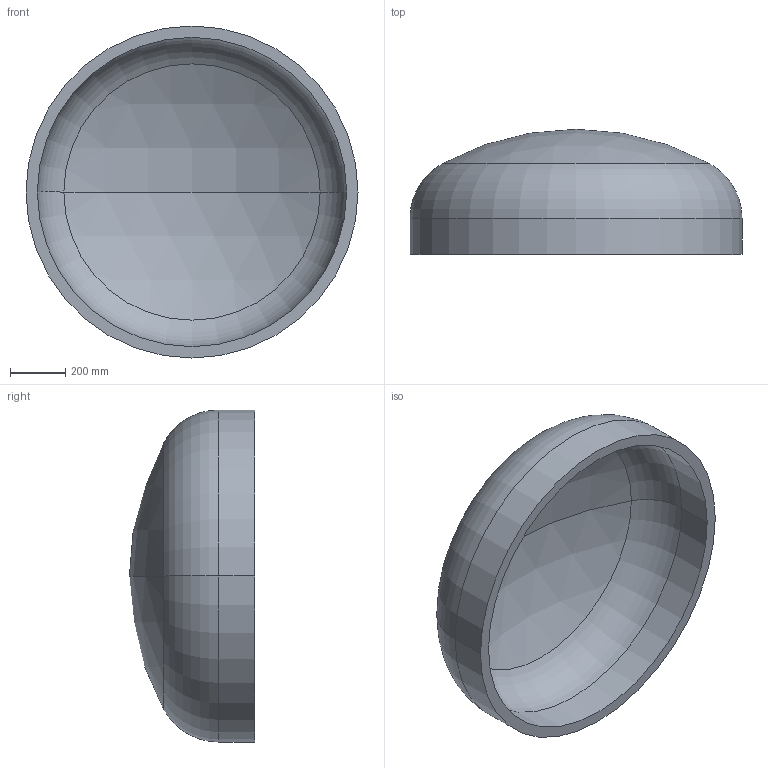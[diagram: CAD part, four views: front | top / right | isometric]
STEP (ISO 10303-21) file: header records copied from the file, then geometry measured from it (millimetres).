
FILE_DESCRIPTION (( 'STEP AP203' ), '1' );
FILE_NAME ('DIN 28013 Korbbogenform_-_Boden DIN 28013 - 1200 x 130 - I - s=41.step', '2016-07-01T09:28:42', ( '' ), ( '' ), 'SwSTEP 2.0', 'SolidWorks 2013', '' );
FILE_SCHEMA (( 'CONFIG_CONTROL_DESIGN' ));
Length unit declared in the file: millimetre
Products named in the file (1): DIN 28013 Korbbogenform_-_Boden DIN 28013 - 1200 x 130 - I - s=41
Bounding box: 1200 x 452.22 x 1200 mm (x, y, z)
Volume: 80847966.2 mm3; surface area: 4096608.2 mm2
Topology: 1 solids, 1 shells, 13 faces, 24 edges, 14 vertices
Faces by surface type: torus 4, cylinder 4, sphere 4, plane 1
Entity records: 407 total; most frequent: DIRECTION 72, CARTESIAN_POINT 52, ORIENTED_EDGE 48, AXIS2_PLACEMENT_3D 34, EDGE_CURVE 24, CIRCLE 20, EDGE_LOOP 14, VERTEX_POINT 14
